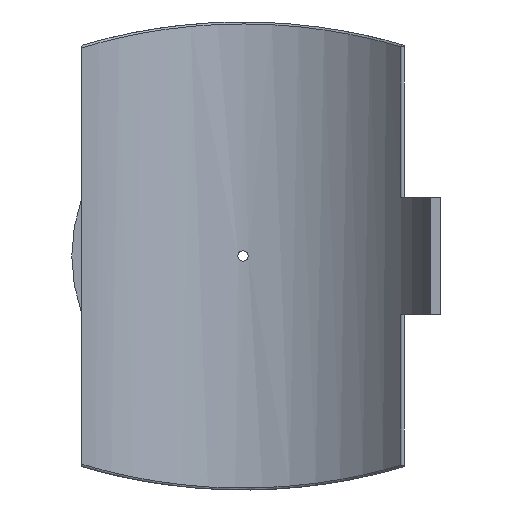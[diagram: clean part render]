
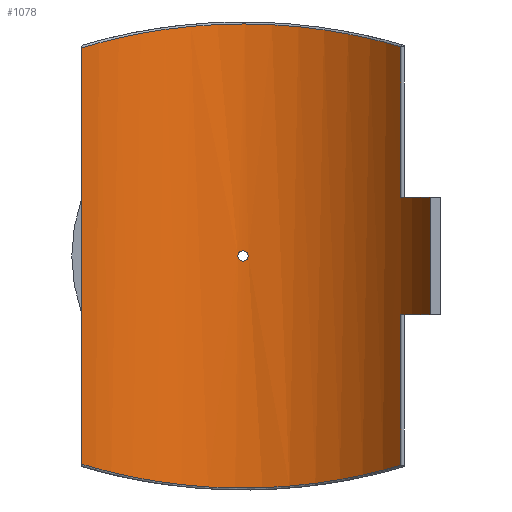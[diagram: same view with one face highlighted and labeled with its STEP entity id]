
A CAD part, front view. The second image highlights one B-rep face of the part: STEP entity #1078.
In plain terms, the highlighted cylindrical face has radius 200 mm (diameter 400 mm), a partial arc.
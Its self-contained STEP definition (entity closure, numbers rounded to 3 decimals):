
#55=FACE_BOUND('',#355,.T.);
#109=B_SPLINE_CURVE_WITH_KNOTS('',3,(#2211,#2212,#2213,#2214,#2215,#2216,
#2217,#2218,#2219,#2220),.UNSPECIFIED.,.F.,.F.,(4,1,1,1,1,1,1,4),(-44.396,
-38.983,-33.57,-28.157,-22.744,
-17.331,-11.918,-6.505),.UNSPECIFIED.);
#110=B_SPLINE_CURVE_WITH_KNOTS('',3,(#2229,#2230,#2231,#2232,#2233,#2234,
#2235,#2236,#2237,#2238),.UNSPECIFIED.,.F.,.F.,(4,1,1,1,1,1,1,4),(-41.875,
-36.462,-31.049,-25.636,-20.223,
-14.81,-9.397,-3.984),.UNSPECIFIED.);
#111=B_SPLINE_CURVE_WITH_KNOTS('',3,(#2241,#2242,#2243,#2244,#2245,#2246,
#2247,#2248,#2249,#2250),.UNSPECIFIED.,.F.,.F.,(4,2,2,2,4),(0.,0.196,
0.392,0.588,0.784),.UNSPECIFIED.);
#112=B_SPLINE_CURVE_WITH_KNOTS('',3,(#2251,#2252,#2253,#2254,#2255,#2256,
#2257,#2258,#2259,#2260,#2261,#2262,#2263,#2264,#2265,#2266,#2267,#2268,
#2269,#2270,#2271,#2272,#2273,#2274,#2275,#2276),.UNSPECIFIED.,.F.,.F.,
(4,2,2,2,2,2,2,2,2,2,2,2,4),(0.784,0.979,1.175,
1.371,1.567,1.763,1.959,2.155,
2.351,2.547,2.742,2.938,3.134),
 .UNSPECIFIED.);
#133=LINE('',#1615,#184);
#144=LINE('',#1899,#195);
#151=LINE('',#2225,#202);
#152=LINE('',#2228,#203);
#184=VECTOR('',#1292,10.);
#195=VECTOR('',#1331,10.);
#202=VECTOR('',#1368,10.);
#203=VECTOR('',#1371,10.);
#244=CYLINDRICAL_SURFACE('',#1175,200.);
#288=FACE_OUTER_BOUND('',#354,.T.);
#354=EDGE_LOOP('',(#839,#840,#841,#842,#843,#844,#845,#846));
#355=EDGE_LOOP('',(#847,#848));
#449=CIRCLE('',#1176,200.);
#450=CIRCLE('',#1177,200.);
#510=VERTEX_POINT('',#1606);
#513=VERTEX_POINT('',#1613);
#533=VERTEX_POINT('',#1892);
#536=VERTEX_POINT('',#1897);
#549=VERTEX_POINT('',#2191);
#550=VERTEX_POINT('',#2222);
#551=VERTEX_POINT('',#2224);
#552=VERTEX_POINT('',#2227);
#553=VERTEX_POINT('',#2239);
#554=VERTEX_POINT('',#2240);
#613=EDGE_CURVE('',#513,#510,#133,.T.);
#643=EDGE_CURVE('',#536,#533,#144,.T.);
#666=EDGE_CURVE('',#549,#536,#109,.T.);
#667=EDGE_CURVE('',#550,#513,#449,.T.);
#668=EDGE_CURVE('',#550,#551,#151,.T.);
#669=EDGE_CURVE('',#533,#551,#450,.T.);
#670=EDGE_CURVE('',#552,#549,#152,.T.);
#671=EDGE_CURVE('',#510,#552,#110,.T.);
#672=EDGE_CURVE('',#553,#554,#111,.T.);
#673=EDGE_CURVE('',#554,#553,#112,.T.);
#839=ORIENTED_EDGE('',*,*,#667,.F.);
#840=ORIENTED_EDGE('',*,*,#668,.T.);
#841=ORIENTED_EDGE('',*,*,#669,.F.);
#842=ORIENTED_EDGE('',*,*,#643,.F.);
#843=ORIENTED_EDGE('',*,*,#666,.F.);
#844=ORIENTED_EDGE('',*,*,#670,.F.);
#845=ORIENTED_EDGE('',*,*,#671,.F.);
#846=ORIENTED_EDGE('',*,*,#613,.F.);
#847=ORIENTED_EDGE('',*,*,#672,.T.);
#848=ORIENTED_EDGE('',*,*,#673,.T.);
#1078=ADVANCED_FACE('',(#288,#55),#244,.F.);
#1175=AXIS2_PLACEMENT_3D('',#2221,#1364,#1365);
#1176=AXIS2_PLACEMENT_3D('',#2223,#1366,#1367);
#1177=AXIS2_PLACEMENT_3D('',#2226,#1369,#1370);
#1292=DIRECTION('',(0.,0.,-1.));
#1331=DIRECTION('',(0.,0.,-1.));
#1364=DIRECTION('center_axis',(0.,0.,1.));
#1365=DIRECTION('ref_axis',(-1.,0.,0.));
#1366=DIRECTION('center_axis',(0.,0.,1.));
#1367=DIRECTION('ref_axis',(-0.939,-0.344,0.));
#1368=DIRECTION('',(0.,0.,1.));
#1369=DIRECTION('center_axis',(0.,0.,-1.));
#1370=DIRECTION('ref_axis',(-0.939,-0.344,0.));
#1371=DIRECTION('',(0.,0.,1.));
#1606=CARTESIAN_POINT('',(158.416,122.084,-210.005));
#1613=CARTESIAN_POINT('',(158.416,122.084,-58.75));
#1615=CARTESIAN_POINT('',(158.416,122.084,0.));
#1892=CARTESIAN_POINT('',(158.416,122.084,58.75));
#1897=CARTESIAN_POINT('',(158.416,122.084,210.005));
#1899=CARTESIAN_POINT('',(158.416,122.084,0.));
#2191=CARTESIAN_POINT('',(-162.,117.286,208.929));
#2211=CARTESIAN_POINT('Ctrl Pts',(-162.,117.286,208.929));
#2212=CARTESIAN_POINT('Ctrl Pts',(-151.682,131.537,212.063));
#2213=CARTESIAN_POINT('Ctrl Pts',(-127.33,157.237,218.805));
#2214=CARTESIAN_POINT('Ctrl Pts',(-81.833,185.084,227.702));
#2215=CARTESIAN_POINT('Ctrl Pts',(-30.122,200.156,233.048));
#2216=CARTESIAN_POINT('Ctrl Pts',(24.02,200.984,233.354));
#2217=CARTESIAN_POINT('Ctrl Pts',(76.215,187.472,228.524));
#2218=CARTESIAN_POINT('Ctrl Pts',(122.573,160.977,219.924));
#2219=CARTESIAN_POINT('Ctrl Pts',(147.681,136.013,213.187));
#2220=CARTESIAN_POINT('Ctrl Pts',(158.416,122.084,210.005));
#2221=CARTESIAN_POINT('Origin',(0.,0.,0.));
#2222=CARTESIAN_POINT('',(187.797,68.791,-58.75));
#2223=CARTESIAN_POINT('Origin',(0.,0.,
-58.75));
#2224=CARTESIAN_POINT('',(187.797,68.791,58.75));
#2225=CARTESIAN_POINT('',(187.797,68.791,0.));
#2226=CARTESIAN_POINT('Origin',(0.,0.,
58.75));
#2227=CARTESIAN_POINT('',(-162.,117.286,-208.929));
#2228=CARTESIAN_POINT('',(-162.,117.286,0.));
#2229=CARTESIAN_POINT('Ctrl Pts',(158.416,122.084,-210.005));
#2230=CARTESIAN_POINT('Ctrl Pts',(147.681,136.013,-213.187));
#2231=CARTESIAN_POINT('Ctrl Pts',(122.573,160.976,-219.924));
#2232=CARTESIAN_POINT('Ctrl Pts',(76.216,187.473,-228.525));
#2233=CARTESIAN_POINT('Ctrl Pts',(24.019,200.982,-233.352));
#2234=CARTESIAN_POINT('Ctrl Pts',(-30.123,200.158,-233.05));
#2235=CARTESIAN_POINT('Ctrl Pts',(-81.832,185.083,-227.701));
#2236=CARTESIAN_POINT('Ctrl Pts',(-127.33,157.237,-218.805));
#2237=CARTESIAN_POINT('Ctrl Pts',(-151.682,131.537,-212.063));
#2238=CARTESIAN_POINT('Ctrl Pts',(-162.,117.286,-208.929));
#2239=CARTESIAN_POINT('',(5.2,199.932,0.));
#2240=CARTESIAN_POINT('',(0.,200.,-5.2));
#2241=CARTESIAN_POINT('Ctrl Pts',(5.2,199.932,0.));
#2242=CARTESIAN_POINT('Ctrl Pts',(5.2,199.932,-0.653));
#2243=CARTESIAN_POINT('Ctrl Pts',(5.07,199.936,-1.349));
#2244=CARTESIAN_POINT('Ctrl Pts',(4.539,199.949,-2.631));
#2245=CARTESIAN_POINT('Ctrl Pts',(4.139,199.958,-3.215));
#2246=CARTESIAN_POINT('Ctrl Pts',(3.215,199.975,-4.139));
#2247=CARTESIAN_POINT('Ctrl Pts',(2.631,199.984,-4.539));
#2248=CARTESIAN_POINT('Ctrl Pts',(1.349,199.996,-5.07));
#2249=CARTESIAN_POINT('Ctrl Pts',(0.653,200.,-5.2));
#2250=CARTESIAN_POINT('Ctrl Pts',(0.,200.,-5.2));
#2251=CARTESIAN_POINT('Ctrl Pts',(0.,200.,-5.2));
#2252=CARTESIAN_POINT('Ctrl Pts',(-0.653,200.,-5.2));
#2253=CARTESIAN_POINT('Ctrl Pts',(-1.349,199.996,-5.07));
#2254=CARTESIAN_POINT('Ctrl Pts',(-2.631,199.984,-4.539));
#2255=CARTESIAN_POINT('Ctrl Pts',(-3.215,199.975,-4.139));
#2256=CARTESIAN_POINT('Ctrl Pts',(-4.139,199.958,-3.215));
#2257=CARTESIAN_POINT('Ctrl Pts',(-4.539,199.949,-2.631));
#2258=CARTESIAN_POINT('Ctrl Pts',(-5.07,199.936,-1.349));
#2259=CARTESIAN_POINT('Ctrl Pts',(-5.2,199.932,-0.653));
#2260=CARTESIAN_POINT('Ctrl Pts',(-5.2,199.932,0.653));
#2261=CARTESIAN_POINT('Ctrl Pts',(-5.07,199.936,1.349));
#2262=CARTESIAN_POINT('Ctrl Pts',(-4.539,199.949,2.631));
#2263=CARTESIAN_POINT('Ctrl Pts',(-4.139,199.958,3.215));
#2264=CARTESIAN_POINT('Ctrl Pts',(-3.215,199.975,4.139));
#2265=CARTESIAN_POINT('Ctrl Pts',(-2.631,199.984,4.539));
#2266=CARTESIAN_POINT('Ctrl Pts',(-1.349,199.996,5.07));
#2267=CARTESIAN_POINT('Ctrl Pts',(-0.653,200.,5.2));
#2268=CARTESIAN_POINT('Ctrl Pts',(0.653,200.,5.2));
#2269=CARTESIAN_POINT('Ctrl Pts',(1.349,199.996,5.07));
#2270=CARTESIAN_POINT('Ctrl Pts',(2.631,199.984,4.539));
#2271=CARTESIAN_POINT('Ctrl Pts',(3.215,199.975,4.139));
#2272=CARTESIAN_POINT('Ctrl Pts',(4.139,199.958,3.215));
#2273=CARTESIAN_POINT('Ctrl Pts',(4.539,199.949,2.631));
#2274=CARTESIAN_POINT('Ctrl Pts',(5.07,199.936,1.349));
#2275=CARTESIAN_POINT('Ctrl Pts',(5.2,199.932,0.653));
#2276=CARTESIAN_POINT('Ctrl Pts',(5.2,199.932,0.));
